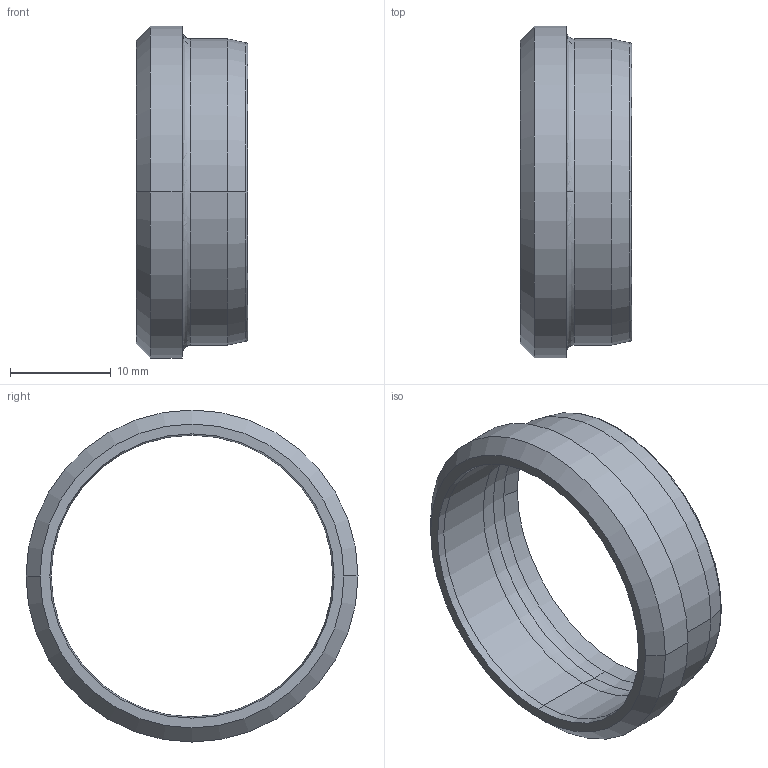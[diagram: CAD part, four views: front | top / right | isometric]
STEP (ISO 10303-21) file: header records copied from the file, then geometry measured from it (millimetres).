
FILE_DESCRIPTION((''),'2;1');
FILE_NAME('100111.stp','2006-03-06T15:07:07',('Dario Falcomer'),('CAST S.p.A.'),'AutoCAD STEP 2000i','AutoCAD 2000i',', , ');
FILE_SCHEMA(('CONFIG_CONTROL_DESIGN'));
Length unit declared in the file: millimetre
Products named in the file (2): 100111.0; 1001ESTERNO#0
Assembly tree (1 placements, depth 2):
  100111.0
    1001ESTERNO#0
Bounding box: 11.07 x 33 x 33 mm (x, y, z)
Volume: 1609.4 mm3; surface area: 2410.2 mm2
Topology: 1 solids, 1 shells, 30 faces, 71 edges, 45 vertices
Faces by surface type: cone 8, bspline 6, torus 6, cylinder 6, plane 4
Entity records: 1249 total; most frequent: CARTESIAN_POINT 412, DIRECTION 180, ORIENTED_EDGE 142, AXIS2_PLACEMENT_3D 83, EDGE_CURVE 71, CIRCLE 57, VERTEX_POINT 45, EDGE_LOOP 34
